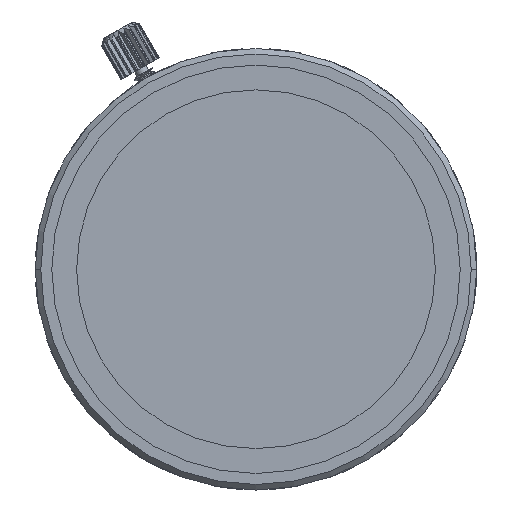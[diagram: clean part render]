
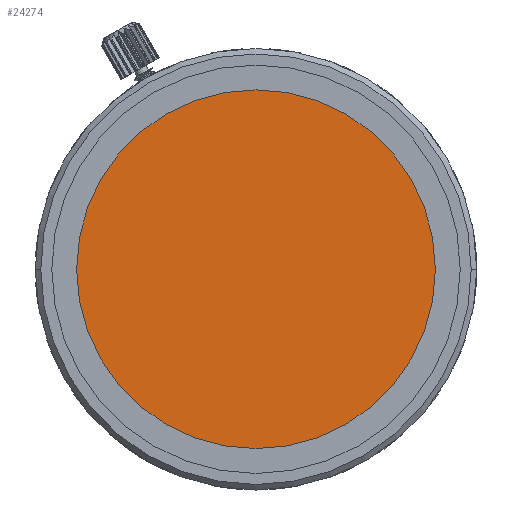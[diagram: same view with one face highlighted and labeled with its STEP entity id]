
A CAD part, left-side view. The second image highlights one B-rep face of the part: STEP entity #24274.
In plain terms, the highlighted planar face has unit normal (-1, 0, 0).
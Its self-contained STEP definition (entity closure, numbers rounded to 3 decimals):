
#8920=CARTESIAN_POINT('',(-13.513,0.,0.));
#8921=DIRECTION('',(1.,0.,0.));
#8922=DIRECTION('',(0.,-1.,0.));
#8923=AXIS2_PLACEMENT_3D('',#8920,#8921,#8922);
#8925=CARTESIAN_POINT('',(-13.513,0.,0.));
#8926=DIRECTION('',(1.,0.,0.));
#8927=DIRECTION('',(0.,1.,0.));
#8928=AXIS2_PLACEMENT_3D('',#8925,#8926,#8927);
#13159=CARTESIAN_POINT('',(-13.513,16.25,0.));
#13160=CARTESIAN_POINT('',(-13.513,-16.25,0.));
#13161=VERTEX_POINT('',#13159);
#13162=VERTEX_POINT('',#13160);
#24264=CARTESIAN_POINT('',(-13.513,0.,0.));
#24265=DIRECTION('',(1.,0.,0.));
#24266=DIRECTION('',(0.,0.,-1.));
#24267=AXIS2_PLACEMENT_3D('',#24264,#24265,#24266);
#24268=PLANE('',#24267);
#24270=ORIENTED_EDGE('',*,*,#24269,.T.);
#24271=ORIENTED_EDGE('',*,*,#24254,.T.);
#24272=EDGE_LOOP('',(#24270,#24271));
#24273=FACE_OUTER_BOUND('',#24272,.F.);
#8924=CIRCLE('',#8923,16.25);
#8929=CIRCLE('',#8928,16.25);
#24254=EDGE_CURVE('',#13161,#13162,#8929,.T.);
#24269=EDGE_CURVE('',#13162,#13161,#8924,.T.);
#24274=ADVANCED_FACE('',(#24273),#24268,.F.);
